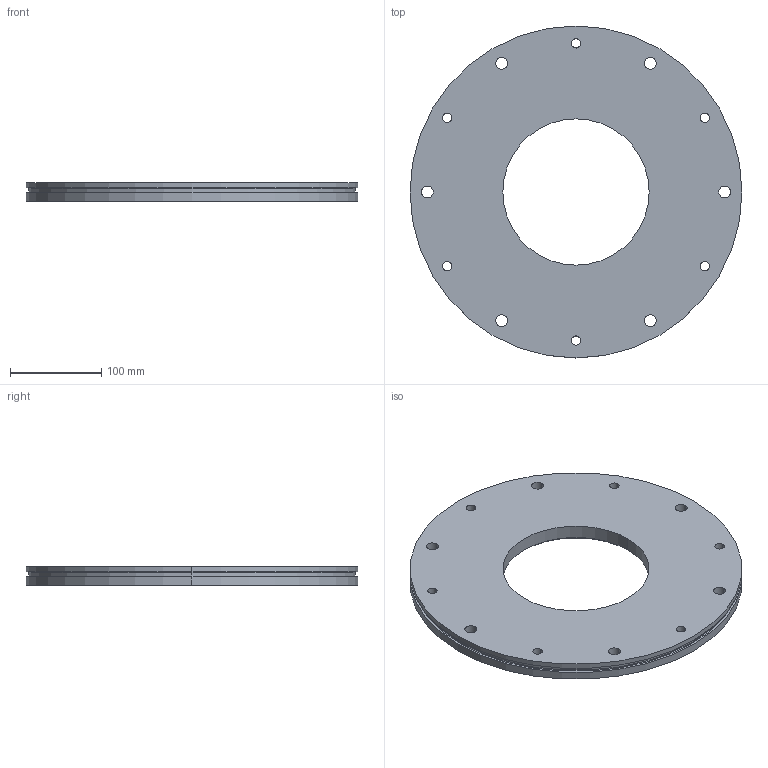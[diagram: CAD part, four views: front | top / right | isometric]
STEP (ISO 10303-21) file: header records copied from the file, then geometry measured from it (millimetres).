
FILE_DESCRIPTION (( 'STEP AP214' ), '1' );
FILE_NAME ('1138 Flansch.STEP', '2025-03-27T06:43:41', ( '' ), ( '' ), 'SwSTEP 2.0', 'SolidWorks 2022', '' );
FILE_SCHEMA (( 'AUTOMOTIVE_DESIGN' ));
Length unit declared in the file: millimetre
Products named in the file (1): 1138 Flansch
Bounding box: 363 x 363 x 20 mm (x, y, z)
Volume: 1548219.9 mm3; surface area: 212310.1 mm2
Topology: 1 solids, 1 shells, 45 faces, 114 edges, 74 vertices
Faces by surface type: cylinder 34, plane 5, torus 4, cone 2
Entity records: 1616 total; most frequent: DIRECTION 284, CARTESIAN_POINT 234, ORIENTED_EDGE 228, AXIS2_PLACEMENT_3D 124, EDGE_CURVE 114, CIRCLE 78, EDGE_LOOP 74, VERTEX_POINT 74
